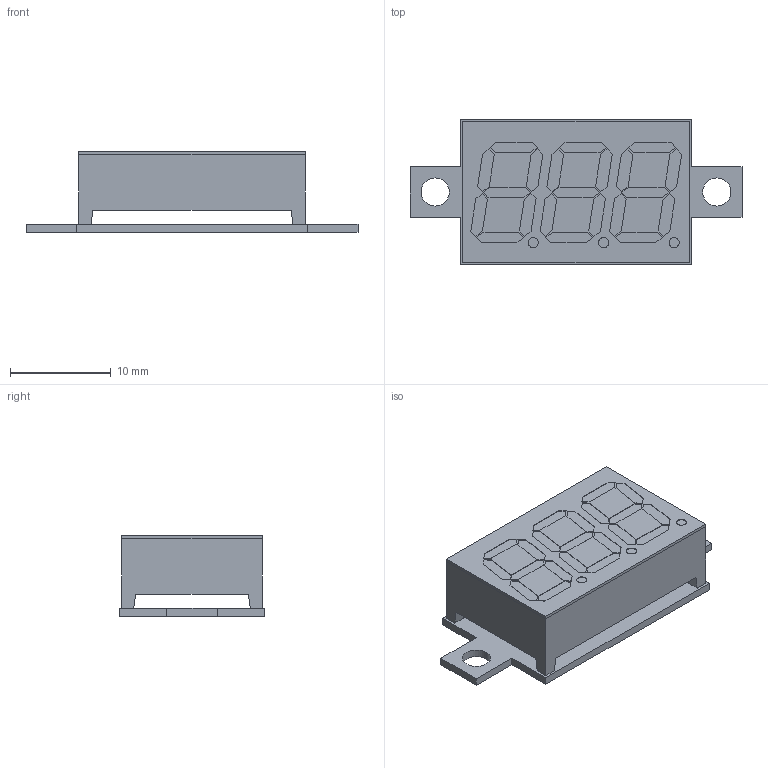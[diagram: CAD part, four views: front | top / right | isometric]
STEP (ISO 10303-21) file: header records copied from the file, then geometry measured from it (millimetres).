
FILE_DESCRIPTION (( 'STEP AP214' ), '1' );
FILE_NAME ('VoltageLCD_Assy.STEP', '2020-10-06T10:48:50', ( '' ), ( '' ), 'SwSTEP 2.0', 'SolidWorks 2019', '' );
FILE_SCHEMA (( 'AUTOMOTIVE_DESIGN' ));
Length unit declared in the file: millimetre
Products named in the file (4): VoltageLCDScreen; VoltageLCDBody; VoltageLCD_PCB; VoltageLCD_Assy
Assembly tree (3 placements, depth 2):
  VoltageLCD_Assy
    VoltageLCD_PCB
    VoltageLCDBody
    VoltageLCDScreen
Bounding box: 33 x 14.5 x 8 mm (x, y, z)
Volume: 2128.8 mm3; surface area: 2553.9 mm2
Topology: 3 solids, 3 shells, 198 faces, 504 edges, 336 vertices
Faces by surface type: plane 188, cylinder 10
Entity records: 8010 total; most frequent: CARTESIAN_POINT 1044, ORIENTED_EDGE 1008, DIRECTION 932, EDGE_CURVE 504, LINE 484, VECTOR 484, VERTEX_POINT 336, EDGE_LOOP 226
